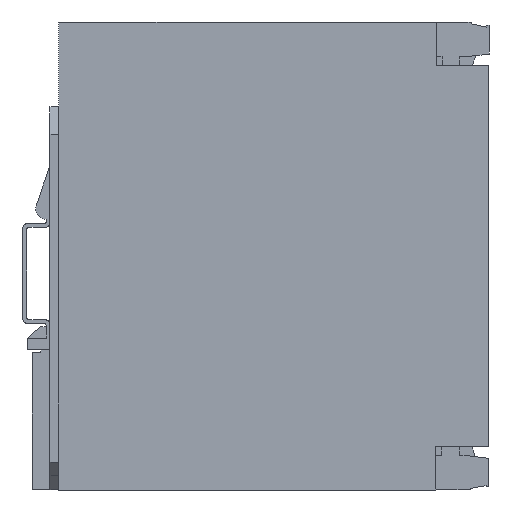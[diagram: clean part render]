
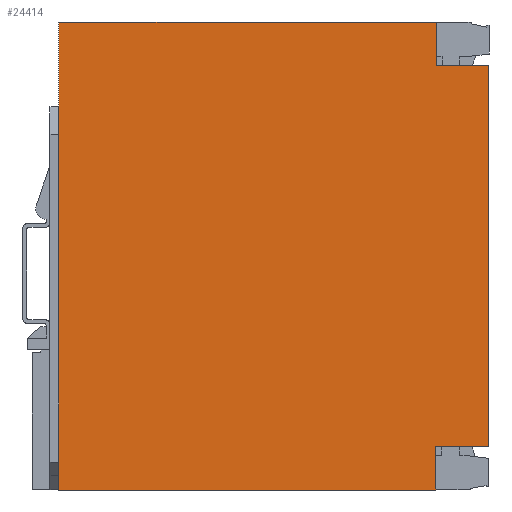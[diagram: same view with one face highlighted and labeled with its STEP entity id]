
A CAD part, front view. The second image highlights one B-rep face of the part: STEP entity #24414.
In plain terms, the highlighted planar face has unit normal (0, -1, 0).
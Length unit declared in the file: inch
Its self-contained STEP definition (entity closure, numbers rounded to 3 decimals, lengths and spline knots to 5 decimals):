
#3721=DIRECTION('',(0.,0.,1.));
#3722=VECTOR('',#3721,0.474);
#3723=CARTESIAN_POINT('',(4.126,0.,0.));
#3724=LINE('',#3723,#3722);
#3725=DIRECTION('',(1.,0.,0.));
#3726=VECTOR('',#3725,4.135);
#3727=CARTESIAN_POINT('',(0.,0.,5.125));
#3728=LINE('',#3727,#3726);
#3729=DIRECTION('',(0.,0.,-1.));
#3730=VECTOR('',#3729,0.476);
#3731=CARTESIAN_POINT('',(4.135,0.,5.125));
#3732=LINE('',#3731,#3730);
#3733=DIRECTION('',(-1.,0.,0.));
#3734=VECTOR('',#3733,0.572);
#3735=CARTESIAN_POINT('',(4.707,0.,4.649));
#3736=LINE('',#3735,#3734);
#3737=DIRECTION('',(-1.,0.,0.));
#3738=VECTOR('',#3737,0.581);
#3739=CARTESIAN_POINT('',(4.707,0.,0.474));
#3740=LINE('',#3739,#3738);
#3745=DIRECTION('',(1.,0.,0.));
#3746=VECTOR('',#3745,4.126);
#3747=CARTESIAN_POINT('',(0.,0.,0.));
#3748=LINE('',#3747,#3746);
#5917=DIRECTION('',(0.,0.,-1.));
#5918=VECTOR('',#5917,5.125);
#5919=CARTESIAN_POINT('',(0.,0.,5.125));
#5920=LINE('',#5919,#5918);
#11021=DIRECTION('',(0.,0.,-1.));
#11022=VECTOR('',#11021,4.175);
#11023=CARTESIAN_POINT('',(4.707,0.,4.649));
#11024=LINE('',#11023,#11022);
#15565=CARTESIAN_POINT('',(0.,0.,5.125));
#15566=VERTEX_POINT('',#15565);
#15567=CARTESIAN_POINT('',(0.,0.,0.));
#15568=VERTEX_POINT('',#15567);
#15570=CARTESIAN_POINT('',(4.135,0.,5.125));
#15572=VERTEX_POINT('',#15570);
#15573=CARTESIAN_POINT('',(4.126,0.,0.));
#15574=CARTESIAN_POINT('',(4.126,0.,0.474));
#15575=VERTEX_POINT('',#15573);
#15576=VERTEX_POINT('',#15574);
#15577=CARTESIAN_POINT('',(4.707,0.,0.474));
#15578=VERTEX_POINT('',#15577);
#15579=CARTESIAN_POINT('',(4.707,0.,4.649));
#15580=CARTESIAN_POINT('',(4.135,0.,4.649));
#15581=VERTEX_POINT('',#15579);
#15582=VERTEX_POINT('',#15580);
#24396=CARTESIAN_POINT('',(0.,0.,5.125));
#24397=DIRECTION('',(0.,-1.,0.));
#24398=DIRECTION('',(0.,0.,-1.));
#24399=AXIS2_PLACEMENT_3D('',#24396,#24397,#24398);
#24400=PLANE('',#24399);
#24401=ORIENTED_EDGE('',*,*,#23760,.F.);
#24403=ORIENTED_EDGE('',*,*,#24402,.F.);
#24405=ORIENTED_EDGE('',*,*,#24404,.F.);
#24406=ORIENTED_EDGE('',*,*,#20722,.T.);
#24407=ORIENTED_EDGE('',*,*,#21999,.T.);
#24408=ORIENTED_EDGE('',*,*,#22060,.F.);
#24410=ORIENTED_EDGE('',*,*,#24409,.T.);
#24411=ORIENTED_EDGE('',*,*,#23973,.T.);
#24412=EDGE_LOOP('',(#24401,#24403,#24405,#24406,#24407,#24408,#24410,#24411));
#24413=FACE_OUTER_BOUND('',#24412,.F.);
#24414=ADVANCED_FACE('',(#24413),#24400,.T.);
#20722=EDGE_CURVE('',#15566,#15572,#3728,.T.);
#21999=EDGE_CURVE('',#15572,#15582,#3732,.T.);
#22060=EDGE_CURVE('',#15581,#15582,#3736,.T.);
#23760=EDGE_CURVE('',#15575,#15576,#3724,.T.);
#23973=EDGE_CURVE('',#15578,#15576,#3740,.T.);
#24402=EDGE_CURVE('',#15568,#15575,#3748,.T.);
#24404=EDGE_CURVE('',#15566,#15568,#5920,.T.);
#24409=EDGE_CURVE('',#15581,#15578,#11024,.T.);
